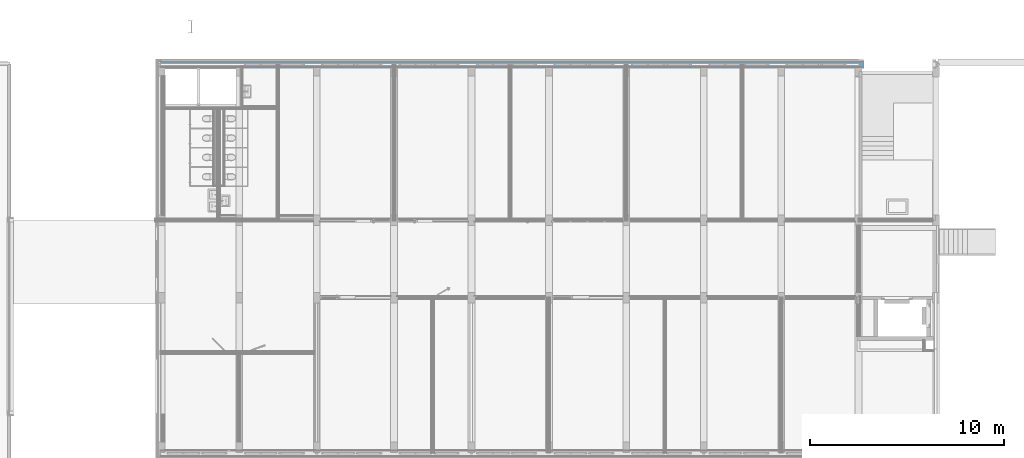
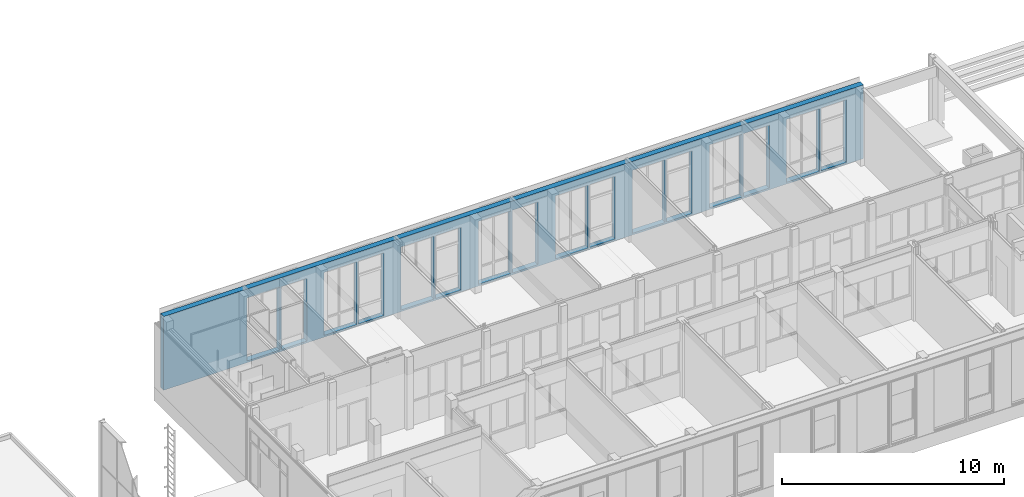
# One storey, part 35 of 54: 1 building element part, 16 openings, 1 element without a shape of its own.
"""IFC2X3 building model written with IfcOpenShell, lengths in millimetres."""

from ifc_helpers import new_model, entity, si_unit, converted_unit, derived_unit, money_unit, direction, frame, origin_with_axes, place, context, subcontext, project, spatial, faceted_brep, material, type_object, element, aggregate, save


model = new_model("IFC2X3")

# Units and contexts
model_context = context("Model", 3, precision=0.01, world=origin_with_axes(), true_north=direction((0.0, 1.0)))
body_context = subcontext(model_context, "Body", "Model", "MODEL_VIEW")
ifc_project = project(units=[si_unit("LENGTHUNIT", "METRE", prefix="MILLI"), si_unit("AREAUNIT", "SQUARE_METRE"), si_unit("VOLUMEUNIT", "CUBIC_METRE"), converted_unit("PLANEANGLEUNIT", "DEGREE", entity("IfcPlaneAngleMeasure", 0.0174532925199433), si_unit("PLANEANGLEUNIT", "RADIAN"), dimensions=[0, 0, 0, 0, 0, 0, 0]), money_unit("EUR"), converted_unit("TIMEUNIT", "Year", entity("IfcTimeMeasure", 31557600.0), si_unit("TIMEUNIT", "SECOND"), dimensions=[0, 0, 1, 0, 0, 0, 0]), si_unit("MASSUNIT", "GRAM", prefix="KILO"), si_unit("THERMODYNAMICTEMPERATUREUNIT", "DEGREE_CELSIUS"), si_unit("LUMINOUSINTENSITYUNIT", "LUMEN"), si_unit("ENERGYUNIT", "JOULE", prefix="MEGA"), derived_unit("THERMALCONDUCTANCEUNIT", [(si_unit("POWERUNIT", "WATT"), 1), (si_unit("LENGTHUNIT", "METRE"), -1), (si_unit("THERMODYNAMICTEMPERATUREUNIT", "KELVIN"), -1)]), derived_unit("SPECIFICHEATCAPACITYUNIT", [(si_unit("ENERGYUNIT", "JOULE"), 1), (si_unit("MASSUNIT", "GRAM", prefix="KILO"), -1), (si_unit("THERMODYNAMICTEMPERATUREUNIT", "KELVIN"), -1)]), derived_unit("MASSDENSITYUNIT", [(si_unit("MASSUNIT", "GRAM", prefix="KILO"), 1), (si_unit("VOLUMEUNIT", "CUBIC_METRE"), -1)])], contexts=[model_context])

# Site, building, storey
site_placement = place(None, origin_with_axes())
site = spatial("IfcSite", under=ifc_project, at=site_placement, Name="<site naam>", CompositionType="ELEMENT")
building_placement = place(site_placement, origin_with_axes())
building = spatial("IfcBuilding", under=site, at=building_placement, Name="<Naam gebouw>", CompositionType="ELEMENT")
storey_placement = place(building_placement, frame((0.0, 0.0, 8500.0), z_axis=(0.0, 0.0, 1.0), x_axis=(1.0, 0.0, 0.0)))
storey = spatial("IfcBuildingStorey", under=building, at=storey_placement, Name="02 2e verdieping", CompositionType="ELEMENT", Elevation=8500.0)

# Wall, openings, building element part
wall_type = type_object("IfcWallType", Name="HSB_285 gevelbeplating 420", PredefinedType="NOTDEFINED")
wall_placement = place(storey_placement, frame((48251.99999966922, 20297.99999999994, 0.0), z_axis=(0.0, 0.0, 1.0), x_axis=(-1.0, 0.0, 0.0)))
wall = element("IfcWall", 1, at=wall_placement, inside=storey, type_object=wall_type, Name="21_Binnenwand_HSB_285")
opening_1_placement = place(wall_placement, frame((1551.00001094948, 0.0, 99.99999999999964), z_axis=(0.0, 0.0, 1.0), x_axis=(1.0, 0.0, 0.0)))
element("IfcOpeningElement", 2, at=opening_1_placement, cuts=wall, Name="21_BU-A-22b sp_305", context=body_context, shape_type="Brep", body=[
    faceted_brep([(662.9999999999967, 213.000000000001, 3450.000000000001), (-662.9999999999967, 213.000000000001, 3450.000000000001), (-662.9999999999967, -1.000000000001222, 3450.000000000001), (662.9999999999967, -1.000000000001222, 3450.000000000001), (662.9999999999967, 421.000000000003, 3450.000000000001), (-662.9999999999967, 421.000000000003, 3450.000000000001), (-662.9999999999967, 213.000000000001, 0.0), (-662.9999999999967, -1.000000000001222, 0.0), (662.9999999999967, -1.000000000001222, 0.0), (662.9999999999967, 213.000000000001, 0.0), (662.9999999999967, 421.000000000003, 0.0), (-662.9999999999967, 421.000000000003, 0.0)], [[[0, 1, 2, 3]], [[1, 0, 4, 5]], [[1, 6, 7, 2]], [[2, 7, 8, 3]], [[9, 0, 3, 8]], [[0, 9, 10, 4]], [[4, 10, 11, 5]], [[6, 1, 5, 11]], [[6, 9, 8, 7]], [[9, 6, 11, 10]]]),
])
opening_2_placement = place(wall_placement, frame((3141.000024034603, 0.0, 99.99999999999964), z_axis=(0.0, 0.0, 1.0), x_axis=(1.0, 0.0, 0.0)))
element("IfcOpeningElement", 3, at=opening_2_placement, cuts=wall, Name="21_BU-A-22a sp_305", context=body_context, shape_type="Brep", body=[
    faceted_brep([(850.9999999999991, 213.000000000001, 3450.000000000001), (-850.9999999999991, 213.000000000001, 3450.000000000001), (-850.9999999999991, -1.000000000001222, 3450.000000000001), (850.9999999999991, -1.000000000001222, 3450.000000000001), (850.9999999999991, 421.000000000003, 3450.000000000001), (-850.9999999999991, 421.000000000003, 3450.000000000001), (-850.9999999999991, 213.000000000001, 0.0), (-850.9999999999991, -1.000000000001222, 0.0), (850.9999999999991, -1.000000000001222, 0.0), (850.9999999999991, 213.000000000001, 0.0), (850.9999999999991, 421.000000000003, 0.0), (-850.9999999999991, 421.000000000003, 0.0)], [[[0, 1, 2, 3]], [[1, 0, 4, 5]], [[1, 6, 7, 2]], [[2, 7, 8, 3]], [[9, 0, 3, 8]], [[0, 9, 10, 4]], [[4, 10, 11, 5]], [[6, 1, 5, 11]], [[6, 9, 8, 7]], [[9, 6, 11, 10]]]),
])
opening_3_placement = place(wall_placement, frame((7140.999999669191, 0.0, 99.99999999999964), z_axis=(0.0, 0.0, 1.0), x_axis=(1.0, 0.0, 0.0)))
element("IfcOpeningElement", 4, at=opening_3_placement, cuts=wall, Name="21_BU-A-22a sp_305", context=body_context, shape_type="Brep", body=[
    faceted_brep([(850.9999999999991, 213.000000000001, 3450.000000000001), (-850.9999999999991, 213.000000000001, 3450.000000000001), (-850.9999999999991, -1.000000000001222, 3450.000000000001), (850.9999999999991, -1.000000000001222, 3450.000000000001), (850.9999999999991, 421.000000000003, 3450.000000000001), (-850.9999999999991, 421.000000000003, 3450.000000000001), (-850.9999999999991, 213.000000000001, 0.0), (-850.9999999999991, -1.000000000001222, 0.0), (850.9999999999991, -1.000000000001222, 0.0), (850.9999999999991, 213.000000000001, 0.0), (850.9999999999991, 421.000000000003, 0.0), (-850.9999999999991, 421.000000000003, 0.0)], [[[0, 1, 2, 3]], [[1, 0, 4, 5]], [[1, 6, 7, 2]], [[2, 7, 8, 3]], [[9, 0, 3, 8]], [[0, 9, 10, 4]], [[4, 10, 11, 5]], [[6, 1, 5, 11]], [[6, 9, 8, 7]], [[9, 6, 11, 10]]]),
])
opening_4_placement = place(wall_placement, frame((11140.99999966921, 0.0, 99.99999999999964), z_axis=(0.0, 0.0, 1.0), x_axis=(1.0, 0.0, 0.0)))
element("IfcOpeningElement", 5, at=opening_4_placement, cuts=wall, Name="21_BU-A-22a sp_305", context=body_context, shape_type="Brep", body=[
    faceted_brep([(850.9999999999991, 213.000000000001, 3450.000000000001), (-850.9999999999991, 213.000000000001, 3450.000000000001), (-850.9999999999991, -1.000000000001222, 3450.000000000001), (850.9999999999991, -1.000000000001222, 3450.000000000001), (850.9999999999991, 421.000000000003, 3450.000000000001), (-850.9999999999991, 421.000000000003, 3450.000000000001), (-850.9999999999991, 213.000000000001, 0.0), (-850.9999999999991, -1.000000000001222, 0.0), (850.9999999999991, -1.000000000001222, 0.0), (850.9999999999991, 213.000000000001, 0.0), (850.9999999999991, 421.000000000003, 0.0), (-850.9999999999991, 421.000000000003, 0.0)], [[[0, 1, 2, 3]], [[1, 0, 4, 5]], [[1, 6, 7, 2]], [[2, 7, 8, 3]], [[9, 0, 3, 8]], [[0, 9, 10, 4]], [[4, 10, 11, 5]], [[6, 1, 5, 11]], [[6, 9, 8, 7]], [[9, 6, 11, 10]]]),
])
opening_5_placement = place(wall_placement, frame((9550.999999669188, 0.0, 99.99999999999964), z_axis=(0.0, 0.0, 1.0), x_axis=(1.0, 0.0, 0.0)))
element("IfcOpeningElement", 6, at=opening_5_placement, cuts=wall, Name="21_BU-A-22b sp_305", context=body_context, shape_type="Brep", body=[
    faceted_brep([(662.9999999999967, 213.000000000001, 3450.000000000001), (-662.9999999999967, 213.000000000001, 3450.000000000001), (-662.9999999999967, -1.000000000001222, 3450.000000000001), (662.9999999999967, -1.000000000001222, 3450.000000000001), (662.9999999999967, 421.000000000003, 3450.000000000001), (-662.9999999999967, 421.000000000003, 3450.000000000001), (-662.9999999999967, 213.000000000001, 0.0), (-662.9999999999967, -1.000000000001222, 0.0), (662.9999999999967, -1.000000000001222, 0.0), (662.9999999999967, 213.000000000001, 0.0), (662.9999999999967, 421.000000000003, 0.0), (-662.9999999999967, 421.000000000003, 0.0)], [[[0, 1, 2, 3]], [[1, 0, 4, 5]], [[1, 6, 7, 2]], [[2, 7, 8, 3]], [[9, 0, 3, 8]], [[0, 9, 10, 4]], [[4, 10, 11, 5]], [[6, 1, 5, 11]], [[6, 9, 8, 7]], [[9, 6, 11, 10]]]),
])
opening_6_placement = place(wall_placement, frame((5550.999999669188, 0.0, 99.99999999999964), z_axis=(0.0, 0.0, 1.0), x_axis=(1.0, 0.0, 0.0)))
element("IfcOpeningElement", 7, at=opening_6_placement, cuts=wall, Name="21_BU-A-22b sp_305", context=body_context, shape_type="Brep", body=[
    faceted_brep([(662.9999999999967, 213.000000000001, 3450.000000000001), (-662.9999999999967, 213.000000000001, 3450.000000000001), (-662.9999999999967, -1.000000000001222, 3450.000000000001), (662.9999999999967, -1.000000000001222, 3450.000000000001), (662.9999999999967, 421.000000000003, 3450.000000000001), (-662.9999999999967, 421.000000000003, 3450.000000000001), (-662.9999999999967, 213.000000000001, 0.0), (-662.9999999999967, -1.000000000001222, 0.0), (662.9999999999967, -1.000000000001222, 0.0), (662.9999999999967, 213.000000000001, 0.0), (662.9999999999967, 421.000000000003, 0.0), (-662.9999999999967, 421.000000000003, 0.0)], [[[0, 1, 2, 3]], [[1, 0, 4, 5]], [[1, 6, 7, 2]], [[2, 7, 8, 3]], [[9, 0, 3, 8]], [[0, 9, 10, 4]], [[4, 10, 11, 5]], [[6, 1, 5, 11]], [[6, 9, 8, 7]], [[9, 6, 11, 10]]]),
])
opening_7_placement = place(wall_placement, frame((13550.99999966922, 0.0, 99.99999999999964), z_axis=(0.0, 0.0, 1.0), x_axis=(1.0, 0.0, 0.0)))
element("IfcOpeningElement", 8, at=opening_7_placement, cuts=wall, Name="21_BU-A-22b sp_305", context=body_context, shape_type="Brep", body=[
    faceted_brep([(662.9999999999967, 213.000000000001, 3450.000000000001), (-662.9999999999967, 213.000000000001, 3450.000000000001), (-662.9999999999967, -1.000000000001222, 3450.000000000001), (662.9999999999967, -1.000000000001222, 3450.000000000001), (662.9999999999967, 421.000000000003, 3450.000000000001), (-662.9999999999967, 421.000000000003, 3450.000000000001), (-662.9999999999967, 213.000000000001, 0.0), (-662.9999999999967, -1.000000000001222, 0.0), (662.9999999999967, -1.000000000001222, 0.0), (662.9999999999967, 213.000000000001, 0.0), (662.9999999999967, 421.000000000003, 0.0), (-662.9999999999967, 421.000000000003, 0.0)], [[[0, 1, 2, 3]], [[1, 0, 4, 5]], [[1, 6, 7, 2]], [[2, 7, 8, 3]], [[9, 0, 3, 8]], [[0, 9, 10, 4]], [[4, 10, 11, 5]], [[6, 1, 5, 11]], [[6, 9, 8, 7]], [[9, 6, 11, 10]]]),
])
opening_8_placement = place(wall_placement, frame((19140.98053610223, 0.0, 99.99999999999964), z_axis=(0.0, 0.0, 1.0), x_axis=(1.0, 0.0, 0.0)))
element("IfcOpeningElement", 9, at=opening_8_placement, cuts=wall, Name="21_BU-A-22a sp_305", context=body_context, shape_type="Brep", body=[
    faceted_brep([(850.9999999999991, 212.9999999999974, 3450.000000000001), (-850.9999999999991, 212.9999999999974, 3450.000000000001), (-850.9999999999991, -1.000000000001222, 3450.000000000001), (850.9999999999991, -1.000000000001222, 3450.000000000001), (850.9999999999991, 421.000000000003, 3450.000000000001), (-850.9999999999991, 421.000000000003, 3450.000000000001), (-850.9999999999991, 212.9999999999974, 0.0), (-850.9999999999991, -1.000000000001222, 0.0), (850.9999999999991, -1.000000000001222, 0.0), (850.9999999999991, 212.9999999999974, 0.0), (850.9999999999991, 421.000000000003, 0.0), (-850.9999999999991, 421.000000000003, 0.0)], [[[0, 1, 2, 3]], [[1, 0, 4, 5]], [[1, 6, 7, 2]], [[2, 7, 8, 3]], [[9, 0, 3, 8]], [[0, 9, 10, 4]], [[4, 10, 11, 5]], [[6, 1, 5, 11]], [[6, 9, 8, 7]], [[9, 6, 11, 10]]]),
])
opening_9_placement = place(wall_placement, frame((17550.99999966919, 0.0, 99.99999999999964), z_axis=(0.0, 0.0, 1.0), x_axis=(1.0, 0.0, 0.0)))
element("IfcOpeningElement", 10, at=opening_9_placement, cuts=wall, Name="21_BU-A-22b sp_305", context=body_context, shape_type="Brep", body=[
    faceted_brep([(663.0000000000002, 212.9999999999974, 3450.000000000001), (-663.0000000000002, 212.9999999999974, 3450.000000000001), (-663.0000000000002, -1.000000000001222, 3450.000000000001), (663.0000000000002, -1.000000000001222, 3450.000000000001), (663.0000000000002, 421.000000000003, 3450.000000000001), (-663.0000000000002, 421.000000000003, 3450.000000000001), (-663.0000000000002, 212.9999999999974, 0.0), (-663.0000000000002, -1.000000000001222, 0.0), (663.0000000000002, -1.000000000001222, 0.0), (663.0000000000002, 212.9999999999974, 0.0), (663.0000000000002, 421.000000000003, 0.0), (-663.0000000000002, 421.000000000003, 0.0)], [[[0, 1, 2, 3]], [[1, 0, 4, 5]], [[1, 6, 7, 2]], [[2, 7, 8, 3]], [[9, 0, 3, 8]], [[0, 9, 10, 4]], [[4, 10, 11, 5]], [[6, 1, 5, 11]], [[6, 9, 8, 7]], [[9, 6, 11, 10]]]),
])
opening_10_placement = place(wall_placement, frame((23141.0125073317, 0.0, 99.99999999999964), z_axis=(0.0, 0.0, 1.0), x_axis=(1.0, 0.0, 0.0)))
element("IfcOpeningElement", 11, at=opening_10_placement, cuts=wall, Name="21_BU-A-22a sp_305", context=body_context, shape_type="Brep", body=[
    faceted_brep([(850.9999999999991, 212.9999999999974, 3450.000000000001), (-850.9999999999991, 212.9999999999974, 3450.000000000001), (-850.9999999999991, -1.000000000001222, 3450.000000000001), (850.9999999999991, -1.000000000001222, 3450.000000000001), (850.9999999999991, 421.000000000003, 3450.000000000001), (-850.9999999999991, 421.000000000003, 3450.000000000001), (-850.9999999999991, 212.9999999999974, 0.0), (-850.9999999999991, -1.000000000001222, 0.0), (850.9999999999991, -1.000000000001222, 0.0), (850.9999999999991, 212.9999999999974, 0.0), (850.9999999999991, 421.000000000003, 0.0), (-850.9999999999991, 421.000000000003, 0.0)], [[[0, 1, 2, 3]], [[1, 0, 4, 5]], [[1, 6, 7, 2]], [[2, 7, 8, 3]], [[9, 0, 3, 8]], [[0, 9, 10, 4]], [[4, 10, 11, 5]], [[6, 1, 5, 11]], [[6, 9, 8, 7]], [[9, 6, 11, 10]]]),
])
opening_11_placement = place(wall_placement, frame((27140.99995093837, 0.0, 99.99999999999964), z_axis=(0.0, 0.0, 1.0), x_axis=(1.0, 0.0, 0.0)))
element("IfcOpeningElement", 12, at=opening_11_placement, cuts=wall, Name="21_BU-A-22a sp_305", context=body_context, shape_type="Brep", body=[
    faceted_brep([(850.9999999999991, 212.9999999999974, 3450.000000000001), (-850.9999999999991, 212.9999999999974, 3450.000000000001), (-850.9999999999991, -1.000000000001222, 3450.000000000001), (850.9999999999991, -1.000000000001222, 3450.000000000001), (850.9999999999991, 421.000000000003, 3450.000000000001), (-850.9999999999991, 421.000000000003, 3450.000000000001), (-850.9999999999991, 212.9999999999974, 0.0), (-850.9999999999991, -1.000000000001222, 0.0), (850.9999999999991, -1.000000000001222, 0.0), (850.9999999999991, 212.9999999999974, 0.0), (850.9999999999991, 421.000000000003, 0.0), (-850.9999999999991, 421.000000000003, 0.0)], [[[0, 1, 2, 3]], [[1, 0, 4, 5]], [[1, 6, 7, 2]], [[2, 7, 8, 3]], [[9, 0, 3, 8]], [[0, 9, 10, 4]], [[4, 10, 11, 5]], [[6, 1, 5, 11]], [[6, 9, 8, 7]], [[9, 6, 11, 10]]]),
])
opening_12_placement = place(wall_placement, frame((21550.98053610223, 0.0, 99.99999999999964), z_axis=(0.0, 0.0, 1.0), x_axis=(1.0, 0.0, 0.0)))
element("IfcOpeningElement", 13, at=opening_12_placement, cuts=wall, Name="21_BU-A-22b sp_305", context=body_context, shape_type="Brep", body=[
    faceted_brep([(663.0000000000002, 212.9999999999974, 3450.000000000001), (-663.0000000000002, 212.9999999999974, 3450.000000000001), (-663.0000000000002, -1.000000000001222, 3450.000000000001), (663.0000000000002, -1.000000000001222, 3450.000000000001), (663.0000000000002, 421.000000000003, 3450.000000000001), (-663.0000000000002, 421.000000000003, 3450.000000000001), (-663.0000000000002, 212.9999999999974, 0.0), (-663.0000000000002, -1.000000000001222, 0.0), (663.0000000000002, -1.000000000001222, 0.0), (663.0000000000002, 212.9999999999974, 0.0), (663.0000000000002, 421.000000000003, 0.0), (-663.0000000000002, 421.000000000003, 0.0)], [[[0, 1, 2, 3]], [[1, 0, 4, 5]], [[1, 6, 7, 2]], [[2, 7, 8, 3]], [[9, 0, 3, 8]], [[0, 9, 10, 4]], [[4, 10, 11, 5]], [[6, 1, 5, 11]], [[6, 9, 8, 7]], [[9, 6, 11, 10]]]),
])
opening_13_placement = place(wall_placement, frame((25550.99999966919, 0.0, 99.99999999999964), z_axis=(0.0, 0.0, 1.0), x_axis=(1.0, 0.0, 0.0)))
element("IfcOpeningElement", 14, at=opening_13_placement, cuts=wall, Name="21_BU-A-22b sp_305", context=body_context, shape_type="Brep", body=[
    faceted_brep([(663.0000000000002, 212.9999999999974, 3450.000000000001), (-663.0000000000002, 212.9999999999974, 3450.000000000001), (-663.0000000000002, -1.000000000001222, 3450.000000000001), (663.0000000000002, -1.000000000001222, 3450.000000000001), (663.0000000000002, 421.000000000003, 3450.000000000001), (-663.0000000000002, 421.000000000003, 3450.000000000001), (-663.0000000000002, 212.9999999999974, 0.0), (-663.0000000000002, -1.000000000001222, 0.0), (663.0000000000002, -1.000000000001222, 0.0), (663.0000000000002, 212.9999999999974, 0.0), (663.0000000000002, 421.000000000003, 0.0), (-663.0000000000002, 421.000000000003, 0.0)], [[[0, 1, 2, 3]], [[1, 0, 4, 5]], [[1, 6, 7, 2]], [[2, 7, 8, 3]], [[9, 0, 3, 8]], [[0, 9, 10, 4]], [[4, 10, 11, 5]], [[6, 1, 5, 11]], [[6, 9, 8, 7]], [[9, 6, 11, 10]]]),
])
opening_14_placement = place(wall_placement, frame((29551.00001094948, 0.0, 99.99999999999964), z_axis=(0.0, 0.0, 1.0), x_axis=(1.0, 0.0, 0.0)))
element("IfcOpeningElement", 15, at=opening_14_placement, cuts=wall, Name="21_BU-A-22b sp_305", context=body_context, shape_type="Brep", body=[
    faceted_brep([(663.0000000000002, 212.9999999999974, 3450.000000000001), (-663.0000000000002, 212.9999999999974, 3450.000000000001), (-663.0000000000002, -1.000000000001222, 3450.000000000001), (663.0000000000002, -1.000000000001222, 3450.000000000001), (663.0000000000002, 421.000000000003, 3450.000000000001), (-663.0000000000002, 421.000000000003, 3450.000000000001), (-663.0000000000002, 212.9999999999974, 0.0), (-663.0000000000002, -1.000000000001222, 0.0), (663.0000000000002, -1.000000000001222, 0.0), (663.0000000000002, 212.9999999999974, 0.0), (663.0000000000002, 421.000000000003, 0.0), (-663.0000000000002, 421.000000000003, 0.0)], [[[0, 1, 2, 3]], [[1, 0, 4, 5]], [[1, 6, 7, 2]], [[2, 7, 8, 3]], [[9, 0, 3, 8]], [[0, 9, 10, 4]], [[4, 10, 11, 5]], [[6, 1, 5, 11]], [[6, 9, 8, 7]], [[9, 6, 11, 10]]]),
])
opening_15_placement = place(wall_placement, frame((15140.99998838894, 0.0, 99.99999999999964), z_axis=(0.0, 0.0, 1.0), x_axis=(1.0, 0.0, 0.0)))
element("IfcOpeningElement", 16, at=opening_15_placement, cuts=wall, Name="21_BU-A-22a sp_305", context=body_context, shape_type="Brep", body=[
    faceted_brep([(850.9999999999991, 212.9999999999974, 3450.000000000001), (-850.9999999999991, 212.9999999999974, 3450.000000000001), (-850.9999999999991, -1.000000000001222, 3450.000000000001), (850.9999999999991, -1.000000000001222, 3450.000000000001), (850.9999999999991, 421.000000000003, 3450.000000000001), (-850.9999999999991, 421.000000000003, 3450.000000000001), (-850.9999999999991, 212.9999999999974, 0.0), (-850.9999999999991, -1.000000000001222, 0.0), (850.9999999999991, -1.000000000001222, 0.0), (850.9999999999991, 212.9999999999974, 0.0), (850.9999999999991, 421.000000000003, 0.0), (-850.9999999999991, 421.000000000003, 0.0)], [[[0, 1, 2, 3]], [[1, 0, 4, 5]], [[1, 6, 7, 2]], [[2, 7, 8, 3]], [[9, 0, 3, 8]], [[0, 9, 10, 4]], [[4, 10, 11, 5]], [[6, 1, 5, 11]], [[6, 9, 8, 7]], [[9, 6, 11, 10]]]),
])
opening_16_placement = place(wall_placement, frame((31140.99993875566, 0.0, 99.99999999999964), z_axis=(0.0, 0.0, 1.0), x_axis=(1.0, 0.0, 0.0)))
element("IfcOpeningElement", 17, at=opening_16_placement, cuts=wall, Name="21_BU-A-22a sp_305", context=body_context, shape_type="Brep", body=[
    faceted_brep([(850.9999999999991, 212.9999999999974, 3450.000000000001), (-850.9999999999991, 212.9999999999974, 3450.000000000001), (-850.9999999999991, -1.000000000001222, 3450.000000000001), (850.9999999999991, -1.000000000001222, 3450.000000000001), (850.9999999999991, 421.000000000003, 3450.000000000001), (-850.9999999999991, 421.000000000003, 3450.000000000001), (-850.9999999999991, 212.9999999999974, 0.0), (-850.9999999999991, -1.000000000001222, 0.0), (850.9999999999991, -1.000000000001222, 0.0), (850.9999999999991, 212.9999999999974, 0.0), (850.9999999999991, 421.000000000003, 0.0), (-850.9999999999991, 421.000000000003, 0.0)], [[[0, 1, 2, 3]], [[1, 0, 4, 5]], [[1, 6, 7, 2]], [[2, 7, 8, 3]], [[9, 0, 3, 8]], [[0, 9, 10, 4]], [[4, 10, 11, 5]], [[6, 1, 5, 11]], [[6, 9, 8, 7]], [[9, 6, 11, 10]]]),
])
ifc_material = material(Name="isolatie_houtvezel")
building_element_part_placement = place(wall_placement, origin_with_axes())
building_element_part = element("IfcBuildingElementPart", 18, at=building_element_part_placement, material=ifc_material, Name="isolatie_houtvezel", context=body_context, shape_type="Brep", body=[
    faceted_brep([(36316.99999966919, 106.9999999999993, 4050.000014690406), (0.0, 106.9999999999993, 4050.000014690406), (0.0, 106.9999999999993, 0.0), (36316.99999966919, 106.9999999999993, 0.0), (0.0, 391.9999999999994, 4050.000014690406), (36316.99999966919, 391.9999999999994, 4050.000014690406), (0.0, 391.9999999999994, 0.0), (20416.3664353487, 373.0000505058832, 0.0), (24076.98066486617, 373.0000505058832, 0.0), (24076.98066486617, 391.9999999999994, 0.0), (30327.06167473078, 391.9999999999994, 0.0), (30327.06167473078, 373.0000031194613, 0.0), (32076.99999966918, 373.0000031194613, 0.0), (32076.99999966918, 391.9999999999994, 0.0), (36316.99999966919, 391.9999999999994, 0.0), (18327.08564309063, 391.9999999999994, 0.0), (18327.08564309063, 373.0000505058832, 0.0), (20076.99989770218, 373.0000505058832, 0.0), (20076.99989770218, 391.9999999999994, 0.0), (20416.3664353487, 391.9999999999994, 0.0), (32076.99999966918, 391.9999999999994, 3.000000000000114), (30327.06167473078, 391.9999999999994, 3.000000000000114), (24076.98066486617, 391.9999999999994, 3.000000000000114), (20416.3664353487, 391.9999999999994, 3.000000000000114), (20076.99989770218, 391.9999999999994, 3.000000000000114), (18327.08564309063, 391.9999999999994, 3.000000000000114), (24427.00024742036, 391.9999999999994, 19.99999999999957), (28077.00001322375, 391.9999999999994, 19.99999999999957), (28077.00001322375, 391.9999999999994, 22.99999999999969), (24427.00024742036, 391.9999999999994, 22.99999999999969), (28426.99990475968, 391.9999999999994, 19.99999999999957), (30176.89930735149, 391.9999999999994, 19.99999999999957), (30176.89930735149, 391.9999999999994, 22.99999999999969), (28426.99990475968, 391.9999999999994, 22.99999999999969), (12426.99986413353, 391.9999999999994, 19.99999999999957), (16076.99992410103, 391.9999999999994, 19.99999999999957), (16076.99992410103, 391.9999999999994, 22.99999999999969), (12426.99986413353, 391.9999999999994, 22.99999999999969), (16426.99993474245, 391.9999999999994, 19.99999999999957), (18177.0017732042, 391.9999999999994, 19.99999999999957), (18177.0017732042, 391.9999999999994, 22.99999999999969), (16426.99993474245, 391.9999999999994, 22.99999999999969), (6327.003855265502, 392.000000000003, 19.99999999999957), (8076.999903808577, 391.9999999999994, 19.99999999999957), (8076.999903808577, 391.9999999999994, 22.99999999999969), (6327.003855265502, 391.9999999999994, 22.99999999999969), (8425.679569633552, 391.9999999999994, 19.99999999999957), (12076.99998374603, 391.9999999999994, 19.99999999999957), (12076.99998374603, 391.9999999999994, 22.99999999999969), (8425.679569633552, 391.9999999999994, 22.99999999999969), (427.0000166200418, 392.000000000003, 19.99999999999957), (4077.000002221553, 391.9999999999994, 19.99999999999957), (4077.000002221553, 392.000000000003, 22.99999999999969), (427.0000166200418, 391.9999999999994, 22.99999999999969), (4427.000000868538, 392.000000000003, 19.99999999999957), (6177.187748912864, 391.9999999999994, 19.99999999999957), (6177.187748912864, 392.000000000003, 22.99999999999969), (4427.000000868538, 391.9999999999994, 22.99999999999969), (24076.98066486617, 373.0000505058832, 3.000000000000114), (20416.3664353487, 373.0000505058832, 3.000000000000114), (30327.06167473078, 373.0000031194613, 3.000000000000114), (32076.99999966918, 373.0000031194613, 3.000000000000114), (18327.08564309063, 373.0000505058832, 3.000000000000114), (20076.99989770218, 373.0000505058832, 3.000000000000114), (28077.00001322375, 373.0001467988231, 19.99999999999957), (24427.00024742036, 373.0001467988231, 19.99999999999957), (28077.00001322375, 373.0001467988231, 22.99999999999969), (24427.00024742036, 373.0001467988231, 22.99999999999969), (30176.89930735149, 373.0001467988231, 19.99999999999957), (28426.99990475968, 373.0001467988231, 19.99999999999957), (30176.89930735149, 373.0001467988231, 22.99999999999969), (28426.99990475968, 373.0001467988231, 22.99999999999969), (16076.99992410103, 373.0002127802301, 19.99999999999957), (12426.99986413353, 373.0002127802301, 19.99999999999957), (16076.99992410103, 373.0002127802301, 22.99999999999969), (12426.99986413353, 373.0002127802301, 22.99999999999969), (18177.0017732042, 373.0002127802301, 19.99999999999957), (16426.99993474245, 373.0002127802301, 19.99999999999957), (18177.0017732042, 373.0002127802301, 22.99999999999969), (16426.99993474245, 373.0002127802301, 22.99999999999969), (8076.999903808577, 373.0000309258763, 19.99999999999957), (6327.003855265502, 373.0000309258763, 19.99999999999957), (8076.999903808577, 373.0000309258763, 22.99999999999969), (6327.003855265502, 373.0000309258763, 22.99999999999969), (12076.99998374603, 373.0000309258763, 19.99999999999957), (8425.679569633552, 373.0000309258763, 19.99999999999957), (12076.99998374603, 373.0000309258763, 22.99999999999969), (8425.679569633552, 373.0000309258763, 22.99999999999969), (4077.000002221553, 373.0000309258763, 19.99999999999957), (427.0000163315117, 373.0000309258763, 19.99999999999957), (4077.000002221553, 373.0000309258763, 22.99999999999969), (427.0000163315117, 373.0000309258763, 22.99999999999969), (6177.187748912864, 373.0000309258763, 19.99999999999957), (4427.000000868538, 373.0000309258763, 19.99999999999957), (6177.187748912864, 373.0000309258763, 22.99999999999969), (4427.000000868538, 373.0000309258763, 22.99999999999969)], [[[0, 1, 2, 3]], [[4, 1, 0, 5]], [[1, 4, 6, 2]], [[7, 8, 9, 10, 11, 12, 13, 14, 3, 2, 6, 15, 16, 17, 18, 19]], [[5, 0, 3, 14]], [[4, 5, 14, 13, 20, 21, 10, 9, 22, 23, 19, 18, 24, 25, 15, 6], [26, 27, 28, 29], [30, 31, 32, 33], [34, 35, 36, 37], [38, 39, 40, 41], [42, 43, 44, 45], [46, 47, 48, 49], [50, 51, 52, 53], [54, 55, 56, 57]], [[58, 8, 7, 59]], [[22, 9, 8, 58]], [[60, 11, 10, 21]], [[61, 12, 11, 60]], [[20, 13, 12, 61]], [[62, 16, 15, 25]], [[63, 17, 16, 62]], [[24, 18, 17, 63]], [[59, 7, 19, 23]], [[60, 21, 20, 61]], [[59, 23, 22, 58]], [[62, 25, 24, 63]], [[64, 27, 26, 65]], [[66, 28, 27, 64]], [[67, 29, 28, 66]], [[65, 26, 29, 67]], [[68, 31, 30, 69]], [[70, 32, 31, 68]], [[71, 33, 32, 70]], [[69, 30, 33, 71]], [[72, 35, 34, 73]], [[74, 36, 35, 72]], [[75, 37, 36, 74]], [[73, 34, 37, 75]], [[76, 39, 38, 77]], [[78, 40, 39, 76]], [[79, 41, 40, 78]], [[77, 38, 41, 79]], [[80, 43, 42, 81]], [[82, 44, 43, 80]], [[83, 45, 44, 82]], [[81, 42, 45, 83]], [[84, 47, 46, 85]], [[86, 48, 47, 84]], [[87, 49, 48, 86]], [[85, 46, 49, 87]], [[88, 51, 50, 89]], [[90, 52, 51, 88]], [[91, 53, 52, 90]], [[89, 50, 53, 91]], [[92, 55, 54, 93]], [[94, 56, 55, 92]], [[95, 57, 56, 94]], [[93, 54, 57, 95]], [[65, 67, 66, 64]], [[69, 71, 70, 68]], [[73, 75, 74, 72]], [[77, 79, 78, 76]], [[81, 83, 82, 80]], [[85, 87, 86, 84]], [[89, 91, 90, 88]], [[93, 95, 94, 92]]]),
])
aggregate(wall, [building_element_part])

save(model, "model.ifc")
